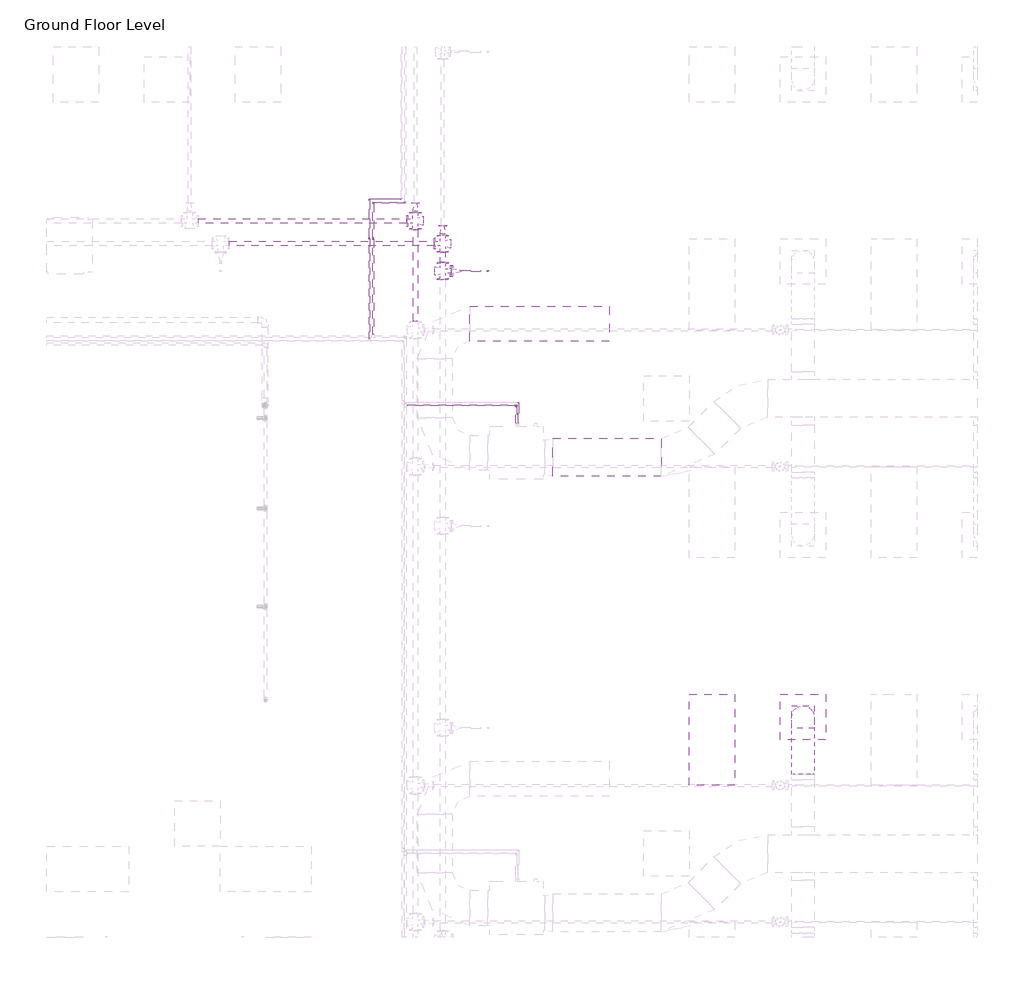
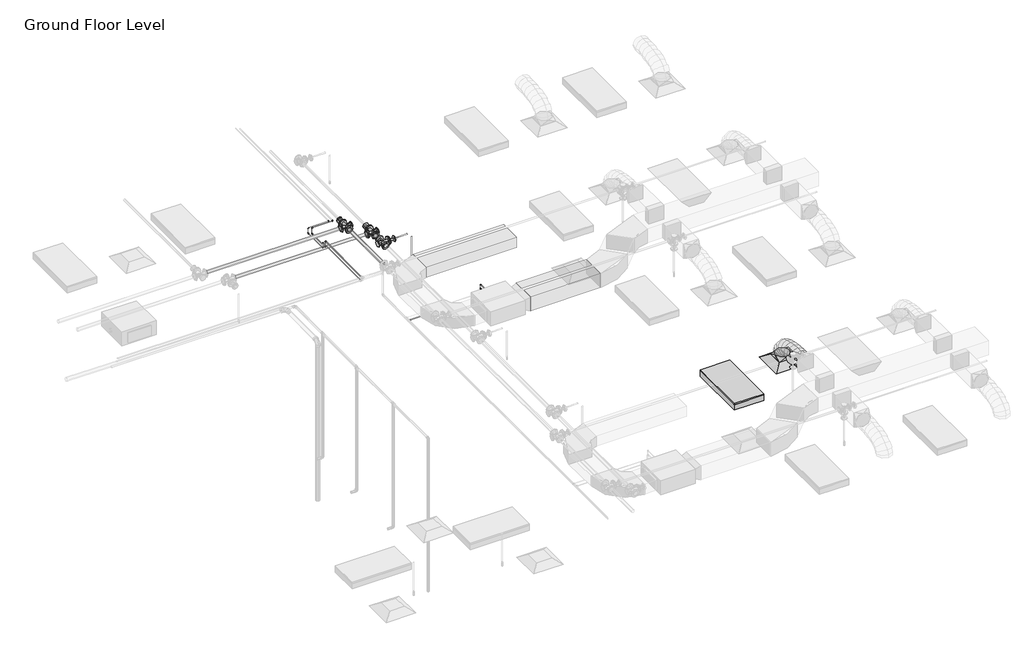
# One storey, part 67 of 73: 21 pipe segments, 20 pipe fittings, 3 duct segments, 1 air terminal, 1 duct fitting, 1 fire suppression terminal, 1 light fixture.
"""IFC4 building model written with IfcOpenShell, lengths in millimetres."""

from ifc_helpers import new_model, si_unit, point, frame, frame_2d, origin, place, context, project, spatial, polyline, circle_curve, ellipse_curve, trimmed, segment, composite_curve, outline, extrude, transform, mapped, element, save
from ifc_brep_helpers import plane_surface, cylinder_surface, advanced_brep
from components import m_return_diffuser_600_x_600_face_300_x_300_connection_ff221211, m_rectangular_to_round_transition_angle_45_degree_641efff0, m_sprinkler_pendent_15_mm_pendent_06fcbd8e, m_troffer_light_parabolic_rectangular1_0600x1200mm_4_lamp_86473d4a, m_elbow_generic_standard_a088f956, m_elbow_generic_standard_2a704253, m_reducer_flanged_cs_class_150_standard_9dfe9ec5, m_reducer_flanged_cs_class_150_standard_a7631c35, m_tee_round_base_flanged_cs_class_150_standard_dd767e04

model = new_model("IFC4")

# Units and contexts
model_context = context("Model", 3, world=origin())
ifc_project = project(units=[si_unit("LENGTHUNIT", "METRE", prefix="MILLI")], contexts=[model_context])

# Site, building, storey
site = spatial("IfcSite", under=ifc_project)
building = spatial("IfcBuilding", under=site)
storey = spatial("IfcBuildingStorey", under=building, Name="Ground Floor Level", Elevation=900.0)

# Air terminal
placement = place(None, origin())
m_return_diffuser_600_x_600_face_300_x_300_connection_shape = m_return_diffuser_600_x_600_face_300_x_300_connection_ff221211(model_context)
element("IfcAirTerminal", 1, ObjectType="M_Supply Diffuser : 600 x 600 Face 300 x 300 Connection", at=placement, inside=storey, context=model_context, shape_type="MappedRepresentation", body=[
    mapped(m_return_diffuser_600_x_600_face_300_x_300_connection_shape, transform((10742.7672395, 8535.2153534, 3650.0), x_axis=(1.0, 0.0, 0.0), y_axis=(0.0, 1.0, 0.0), z_axis=(0.0, 0.0, 1.0))),
])

# Duct fitting
m_rectangular_to_round_transition_angle_45_degree_shape = m_rectangular_to_round_transition_angle_45_degree_641efff0(model_context)
element("IfcDuctFitting", 2, ObjectType="M_Rectangular to Round Transition - Angle : 45 Degree", at=placement, inside=storey, context=model_context, shape_type="MappedRepresentation", body=[
    mapped(m_rectangular_to_round_transition_angle_45_degree_shape, transform((10742.7672395, 8535.2153534, 3751.6), x_axis=(0.0, 0.0, 1.0), y_axis=(-1.0, 0.0, 0.0), z_axis=(0.0, -1.0, 0.0))),
])

# Duct segments
element("IfcDuctSegment", 3, ObjectType="Flex - Round", at=placement, inside=storey, context=model_context, shape_type="AdvancedBrep", body=[
    advanced_brep(
    [(10892.7672395, 8535.2153534, 3826.6), (10742.7672395, 8385.2153534, 3826.6), (10592.7672395, 8535.2153534, 3826.6), (10742.7672395, 8685.2153534, 3826.6), (10892.7672395, 8535.2153534, 3857.9377114), (10742.7672395, 8385.2153534, 3832.2944892), (10592.7672395, 8535.2153534, 3857.9377114), (10742.7672395, 8685.2153534, 3883.5809337), (10892.7672395, 8518.1994208, 3906.2505728), (10742.7672395, 8384.4614419, 3834.435049), (10592.7672395, 8518.1994208, 3906.2505728), (10742.7672395, 8651.9373998, 3978.0660967), (10892.7672395, 8471.0155405, 3968.7113131), (10742.7672395, 8366.8096412, 3857.8020236), (10592.7672395, 8471.0155405, 3968.7113131), (10742.7672395, 8575.2214397, 4079.6206026), (10892.7672395, 8399.4595883, 4016.0700639), (10742.7672395, 8330.5255327, 3881.8163788), (10592.7672395, 8399.4595883, 4016.0700639), (10742.7672395, 8468.3936439, 4150.3237489), (10892.7672395, 8309.3274403, 4050.4146682), (10742.7672395, 8265.7666771, 3906.4925606), (10592.7672395, 8309.3274403, 4050.4146682), (10742.7672395, 8352.8882035, 4194.3367758), (10892.7672395, 8206.4149725, 4073.8329691), (10742.7672395, 8179.8540485, 3926.0424542), (10592.7672395, 8206.4149725, 4073.8329691), (10742.7672395, 8232.9758965, 4221.6234841), (10892.7672395, 8096.5180607, 4088.4128097), (10742.7672395, 8081.3671584, 3939.1085462), (10592.7672395, 8096.5180607, 4088.4128097), (10742.7672395, 8111.6689631, 4237.7170733), (10892.7672395, 7985.4325811, 4096.242033), (10742.7672395, 7977.9272529, 3946.398915), (10592.7672395, 7985.4325811, 4096.242033), (10742.7672395, 7992.9379093, 4246.085151), (10892.7672395, 7878.9544096, 4099.4084821), (10742.7672395, 7876.2629165, 3949.4222102), (10592.7672395, 7878.9544096, 4099.4084821), (10742.7672395, 7881.6459027, 4249.394754), (10892.7672395, 7782.8794221, 4100.0), (10742.7672395, 7783.8029299, 4249.9971571), (10592.7672395, 7782.8794221, 4100.0), (10742.7672395, 7781.9559143, 3950.0028429)],
    [
        (0, 1, circle_curve(frame((10742.7672395, 8535.2153534, 3826.6), z_axis=(0.0, 0.0, -1.0), x_axis=(1.0, 0.0, 0.0)), 150.0)),
        (1, 2, circle_curve(frame((10742.7672395, 8535.2153534, 3826.6), z_axis=(0.0, 0.0, -1.0), x_axis=(1.0, 0.0, 0.0)), 150.0)),
        (2, 3, circle_curve(frame((10742.7672395, 8535.2153534, 3826.6), z_axis=(0.0, 0.0, -1.0), x_axis=(1.0, 0.0, 0.0)), 150.0)),
        (3, 0, circle_curve(frame((10742.7672395, 8535.2153534, 3826.6), z_axis=(0.0, 0.0, -1.0), x_axis=(1.0, 0.0, 0.0)), 150.0)),
        (0, 4),
        (4, 5, ellipse_curve(frame((10742.7672395, 8535.2153534, 3857.9377114), z_axis=(0.0, 0.16851014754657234, -0.9856999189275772), x_axis=(0.0, -0.9856999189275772, -0.1685101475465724)), 152.176131, 150.0)),
        (5, 1),
        (5, 6, ellipse_curve(frame((10742.7672395, 8535.2153534, 3857.9377114), z_axis=(0.0, 0.16851014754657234, -0.9856999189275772), x_axis=(0.0, -0.9856999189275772, -0.1685101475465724)), 152.176131, 150.0)),
        (6, 2),
        (6, 7, ellipse_curve(frame((10742.7672395, 8535.2153534, 3857.9377114), z_axis=(0.0, 0.16851014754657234, -0.9856999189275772), x_axis=(0.0, -0.9856999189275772, -0.1685101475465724)), 152.176131, 150.0)),
        (7, 3),
        (7, 4, ellipse_curve(frame((10742.7672395, 8535.2153534, 3857.9377114), z_axis=(0.0, 0.16851014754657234, -0.9856999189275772), x_axis=(0.0, -0.9856999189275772, -0.1685101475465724)), 152.176131, 150.0)),
        (4, 8),
        (8, 9, ellipse_curve(frame((10742.7672395, 8518.1994208, 3906.2505728), z_axis=(0.0, 0.4730922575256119, -0.8810128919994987), x_axis=(0.0, -0.8810128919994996, -0.47309225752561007)), 151.8002519, 150.0)),
        (9, 5),
        (9, 10, ellipse_curve(frame((10742.7672395, 8518.1994208, 3906.2505728), z_axis=(0.0, 0.4730922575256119, -0.8810128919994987), x_axis=(0.0, -0.8810128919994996, -0.47309225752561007)), 151.8002519, 150.0)),
        (10, 6),
        (10, 11, ellipse_curve(frame((10742.7672395, 8518.1994208, 3906.2505728), z_axis=(0.0, 0.4730922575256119, -0.8810128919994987), x_axis=(0.0, -0.8810128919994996, -0.47309225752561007)), 151.8002519, 150.0)),
        (11, 7),
        (11, 8, ellipse_curve(frame((10742.7672395, 8518.1994208, 3906.2505728), z_axis=(0.0, 0.4730922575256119, -0.8810128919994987), x_axis=(0.0, -0.8810128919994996, -0.47309225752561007)), 151.8002519, 150.0)),
        (8, 12),
        (12, 13, ellipse_curve(frame((10742.7672395, 8471.0155405, 3968.7113131), z_axis=(0.0, 0.7287877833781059, -0.6847396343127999), x_axis=(0.0, -0.6847396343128, -0.7287877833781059)), 152.1832446, 150.0)),
        (13, 9),
        (13, 14, ellipse_curve(frame((10742.7672395, 8471.0155405, 3968.7113131), z_axis=(0.0, 0.7287877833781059, -0.6847396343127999), x_axis=(0.0, -0.6847396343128, -0.7287877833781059)), 152.1832446, 150.0)),
        (14, 10),
        (14, 15, ellipse_curve(frame((10742.7672395, 8471.0155405, 3968.7113131), z_axis=(0.0, 0.7287877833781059, -0.6847396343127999), x_axis=(0.0, -0.6847396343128, -0.7287877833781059)), 152.1832446, 150.0)),
        (15, 11),
        (15, 12, ellipse_curve(frame((10742.7672395, 8471.0155405, 3968.7113131), z_axis=(0.0, 0.7287877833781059, -0.6847396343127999), x_axis=(0.0, -0.6847396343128, -0.7287877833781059)), 152.1832446, 150.0)),
        (12, 16),
        (16, 17, ellipse_curve(frame((10742.7672395, 8399.4595883, 4016.0700639), z_axis=(0.0, 0.8895859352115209, -0.4567678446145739), x_axis=(0.0, -0.4567678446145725, -0.8895859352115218)), 150.91705, 150.0)),
        (17, 13),
        (17, 18, ellipse_curve(frame((10742.7672395, 8399.4595883, 4016.0700639), z_axis=(0.0, 0.8895859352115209, -0.4567678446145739), x_axis=(0.0, -0.4567678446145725, -0.8895859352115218)), 150.91705, 150.0)),
        (18, 14),
        (18, 19, ellipse_curve(frame((10742.7672395, 8399.4595883, 4016.0700639), z_axis=(0.0, 0.8895859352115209, -0.4567678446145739), x_axis=(0.0, -0.4567678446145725, -0.8895859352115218)), 150.91705, 150.0)),
        (19, 15),
        (19, 16, ellipse_curve(frame((10742.7672395, 8399.4595883, 4016.0700639), z_axis=(0.0, 0.8895859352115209, -0.4567678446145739), x_axis=(0.0, -0.4567678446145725, -0.8895859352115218)), 150.91705, 150.0)),
        (16, 20),
        (20, 21, ellipse_curve(frame((10742.7672395, 8309.3274403, 4050.4146682), z_axis=(0.0, 0.9571203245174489, -0.2896906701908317), x_axis=(0.0, -0.2896906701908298, -0.9571203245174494)), 150.369921, 150.0)),
        (21, 17),
        (21, 22, ellipse_curve(frame((10742.7672395, 8309.3274403, 4050.4146682), z_axis=(0.0, 0.9571203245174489, -0.2896906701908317), x_axis=(0.0, -0.2896906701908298, -0.9571203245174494)), 150.369921, 150.0)),
        (22, 18),
        (22, 23, ellipse_curve(frame((10742.7672395, 8309.3274403, 4050.4146682), z_axis=(0.0, 0.9571203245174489, -0.2896906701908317), x_axis=(0.0, -0.2896906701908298, -0.9571203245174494)), 150.369921, 150.0)),
        (23, 19),
        (23, 20, ellipse_curve(frame((10742.7672395, 8309.3274403, 4050.4146682), z_axis=(0.0, 0.9571203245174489, -0.2896906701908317), x_axis=(0.0, -0.2896906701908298, -0.9571203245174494)), 150.369921, 150.0)),
        (20, 24),
        (24, 25, ellipse_curve(frame((10742.7672395, 8206.4149725, 4073.8329691), z_axis=(0.0, 0.9842313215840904, -0.1768861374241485), x_axis=(0.0, -0.17688613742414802, -0.9842313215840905)), 150.1583131, 150.0)),
        (25, 21),
        (25, 26, ellipse_curve(frame((10742.7672395, 8206.4149725, 4073.8329691), z_axis=(0.0, 0.9842313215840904, -0.1768861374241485), x_axis=(0.0, -0.17688613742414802, -0.9842313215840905)), 150.1583131, 150.0)),
        (26, 22),
        (26, 27, ellipse_curve(frame((10742.7672395, 8206.4149725, 4073.8329691), z_axis=(0.0, 0.9842313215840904, -0.1768861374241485), x_axis=(0.0, -0.17688613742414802, -0.9842313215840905)), 150.1583131, 150.0)),
        (27, 23),
        (27, 24, ellipse_curve(frame((10742.7672395, 8206.4149725, 4073.8329691), z_axis=(0.0, 0.9842313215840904, -0.1768861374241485), x_axis=(0.0, -0.17688613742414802, -0.9842313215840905)), 150.1583131, 150.0)),
        (24, 28),
        (28, 29, ellipse_curve(frame((10742.7672395, 8096.5180607, 4088.4128097), z_axis=(0.0, 0.9948906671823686, -0.10095821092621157), x_axis=(0.0, -0.100958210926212, -0.9948906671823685)), 150.0710264, 150.0)),
        (29, 25),
        (29, 30, ellipse_curve(frame((10742.7672395, 8096.5180607, 4088.4128097), z_axis=(0.0, 0.9948906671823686, -0.10095821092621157), x_axis=(0.0, -0.100958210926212, -0.9948906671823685)), 150.0710264, 150.0)),
        (30, 26),
        (30, 31, ellipse_curve(frame((10742.7672395, 8096.5180607, 4088.4128097), z_axis=(0.0, 0.9948906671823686, -0.10095821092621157), x_axis=(0.0, -0.100958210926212, -0.9948906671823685)), 150.0710264, 150.0)),
        (31, 27),
        (31, 28, ellipse_curve(frame((10742.7672395, 8096.5180607, 4088.4128097), z_axis=(0.0, 0.9948906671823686, -0.10095821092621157), x_axis=(0.0, -0.100958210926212, -0.9948906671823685)), 150.0710264, 150.0)),
        (28, 32),
        (32, 33, ellipse_curve(frame((10742.7672395, 7985.4325811, 4096.242033), z_axis=(0.0, 0.9987479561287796, -0.05002519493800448), x_axis=(0.0, -0.050025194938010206, -0.9987479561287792)), 150.0309634, 150.0)),
        (33, 29),
        (33, 34, ellipse_curve(frame((10742.7672395, 7985.4325811, 4096.242033), z_axis=(0.0, 0.9987479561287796, -0.05002519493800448), x_axis=(0.0, -0.050025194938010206, -0.9987479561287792)), 150.0309634, 150.0)),
        (34, 30),
        (34, 35, ellipse_curve(frame((10742.7672395, 7985.4325811, 4096.242033), z_axis=(0.0, 0.9987479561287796, -0.05002519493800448), x_axis=(0.0, -0.050025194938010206, -0.9987479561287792)), 150.0309634, 150.0)),
        (35, 31),
        (35, 32, ellipse_curve(frame((10742.7672395, 7985.4325811, 4096.242033), z_axis=(0.0, 0.9987479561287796, -0.05002519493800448), x_axis=(0.0, -0.050025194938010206, -0.9987479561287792)), 150.0309634, 150.0)),
        (32, 36),
        (36, 37, ellipse_curve(frame((10742.7672395, 7878.9544096, 4099.4084821), z_axis=(0.0, 0.9998390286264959, -0.017942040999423), x_axis=(0.0, -0.01794204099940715, -0.9998390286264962)), 150.0104193, 150.0)),
        (37, 33),
        (37, 38, ellipse_curve(frame((10742.7672395, 7878.9544096, 4099.4084821), z_axis=(0.0, 0.9998390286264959, -0.017942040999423), x_axis=(0.0, -0.01794204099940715, -0.9998390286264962)), 150.0104193, 150.0)),
        (38, 34),
        (38, 39, ellipse_curve(frame((10742.7672395, 7878.9544096, 4099.4084821), z_axis=(0.0, 0.9998390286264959, -0.017942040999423), x_axis=(0.0, -0.01794204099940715, -0.9998390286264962)), 150.0104193, 150.0)),
        (39, 35),
        (39, 36, ellipse_curve(frame((10742.7672395, 7878.9544096, 4099.4084821), z_axis=(0.0, 0.9998390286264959, -0.017942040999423), x_axis=(0.0, -0.01794204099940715, -0.9998390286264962)), 150.0104193, 150.0)),
        (40, 41, circle_curve(frame((10742.7672395, 7782.8794221, 4100.0), z_axis=(0.0, -0.9999810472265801, 0.006156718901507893), x_axis=(1.0, 0.0, 0.0)), 150.0)),
        (41, 42, circle_curve(frame((10742.7672395, 7782.8794221, 4100.0), z_axis=(0.0, -0.9999810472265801, 0.006156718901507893), x_axis=(1.0, 0.0, 0.0)), 150.0)),
        (42, 43, circle_curve(frame((10742.7672395, 7782.8794221, 4100.0), z_axis=(0.0, -0.9999810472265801, 0.006156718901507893), x_axis=(1.0, 0.0, 0.0)), 150.0)),
        (43, 40, circle_curve(frame((10742.7672395, 7782.8794221, 4100.0), z_axis=(0.0, -0.9999810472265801, 0.006156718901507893), x_axis=(1.0, 0.0, 0.0)), 150.0)),
        (36, 40),
        (43, 37),
        (42, 38),
        (41, 39),
    ],
    [
        plane_surface(frame((10742.7672395, 8385.2153534, 3826.6), z_axis=(0.0, 0.0, -1.0), x_axis=(1.0, 0.0, 0.0))),
        cylinder_surface(frame((10742.7672395, 8535.2153534, 3826.6), z_axis=(0.0, 0.0, -1.0), x_axis=(1.0, 0.0, 0.0)), 150.0),
        cylinder_surface(frame((10742.7672395, 8535.2153534, 3857.9377114), z_axis=(0.0, 0.3322008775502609, -0.9432086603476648), x_axis=(1.0, 0.0, 0.0)), 150.0),
        cylinder_surface(frame((10742.7672395, 8518.1994208, 3906.2505728), z_axis=(0.0, 0.6027625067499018, -0.7979206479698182), x_axis=(1.0, 0.0, 0.0)), 150.0),
        cylinder_surface(frame((10742.7672395, 8471.0155405, 3968.7113131), z_axis=(0.0, 0.8339024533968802, -0.5519118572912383), x_axis=(1.0, 0.0, 0.0)), 150.0),
        cylinder_surface(frame((10742.7672395, 8399.4595883, 4016.0700639), z_axis=(0.0, 0.934458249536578, -0.35607271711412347), x_axis=(1.0, 0.0, 0.0)), 150.0),
        cylinder_surface(frame((10742.7672395, 8309.3274403, 4050.4146682), z_axis=(0.0, 0.9750732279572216, -0.2218833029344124), x_axis=(1.0, 0.0, 0.0)), 150.0),
        cylinder_surface(frame((10742.7672395, 8206.4149725, 4073.8329691), z_axis=(0.0, 0.9913140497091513, -0.13151598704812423), x_axis=(1.0, 0.0, 0.0)), 150.0),
        cylinder_surface(frame((10742.7672395, 8096.5180607, 4088.4128097), z_axis=(0.0, 0.9975255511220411, -0.07030487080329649), x_axis=(1.0, 0.0, 0.0)), 150.0),
        cylinder_surface(frame((10742.7672395, 7985.4325811, 4096.242033), z_axis=(0.0, 0.9995581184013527, -0.029724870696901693), x_axis=(1.0, 0.0, 0.0)), 150.0),
        plane_surface(frame((10742.7672395, 7781.9559143, 3950.0028429), z_axis=(0.0, -0.9999810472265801, 0.0061567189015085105), x_axis=(1.0, 0.0, 0.0))),
        cylinder_surface(frame((10742.7672395, 7878.9544096, 4099.4084821), z_axis=(0.0, 0.9999810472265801, -0.006156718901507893), x_axis=(1.0, 0.0, 0.0)), 150.0),
    ],
    [
        (0, [[1, 2, 3, 4]]),
        (1, [[-1, 5, 6, 7]]),
        (1, [[-2, -7, 8, 9]]),
        (1, [[-3, -9, 10, 11]]),
        (1, [[-4, -11, 12, -5]]),
        (2, [[-6, 13, 14, 15]]),
        (2, [[-8, -15, 16, 17]]),
        (2, [[-10, -17, 18, 19]]),
        (2, [[-12, -19, 20, -13]]),
        (3, [[-14, 21, 22, 23]]),
        (3, [[-16, -23, 24, 25]]),
        (3, [[-18, -25, 26, 27]]),
        (3, [[-20, -27, 28, -21]]),
        (4, [[-22, 29, 30, 31]]),
        (4, [[-24, -31, 32, 33]]),
        (4, [[-26, -33, 34, 35]]),
        (4, [[-28, -35, 36, -29]]),
        (5, [[-30, 37, 38, 39]]),
        (5, [[-32, -39, 40, 41]]),
        (5, [[-34, -41, 42, 43]]),
        (5, [[-36, -43, 44, -37]]),
        (6, [[-38, 45, 46, 47]]),
        (6, [[-40, -47, 48, 49]]),
        (6, [[-42, -49, 50, 51]]),
        (6, [[-44, -51, 52, -45]]),
        (7, [[-46, 53, 54, 55]]),
        (7, [[-48, -55, 56, 57]]),
        (7, [[-50, -57, 58, 59]]),
        (7, [[-52, -59, 60, -53]]),
        (8, [[-54, 61, 62, 63]]),
        (8, [[-56, -63, 64, 65]]),
        (8, [[-58, -65, 66, 67]]),
        (8, [[-60, -67, 68, -61]]),
        (9, [[-62, 69, 70, 71]]),
        (9, [[-64, -71, 72, 73]]),
        (9, [[-66, -73, 74, 75]]),
        (9, [[-68, -75, 76, -69]]),
        (10, [[77, 78, 79, 80]]),
        (11, [[-70, 81, -80, 82]]),
        (11, [[-72, -82, -79, 83]]),
        (11, [[-74, -83, -78, 84]]),
        (11, [[-76, -84, -77, -81]]),
    ],
),
])
element("IfcDuctSegment", 4, ObjectType="Radius Elbows / Taps", at=placement, inside=storey, context=model_context, shape_type="SweptSolid", body=[
    extrude(outline(polyline([(7447.693178, 11706.1779527), (7447.693178, 12206.1779527), (8877.032564, 12206.1779527), (8877.032564, 11706.1779527), (7447.693178, 11706.1779527)])), frame((0.0, 0.0, 3950.0057729), z_axis=(0.0, 0.0, 1.0), x_axis=(1.0, 0.0, 0.0)), (0.0, 0.0, 1.0), 300.0),
])
element("IfcDuctSegment", 5, ObjectType="Radius Elbows / Taps", at=placement, inside=storey, context=model_context, shape_type="SweptSolid", body=[
    extrude(outline(polyline([(6355.2889492, 13488.7408949), (6355.2889492, 13950.6158949), (8193.4139492, 13950.6158949), (8193.4139492, 13488.7408949), (6355.2889492, 13488.7408949)])), frame((0.0, 0.0, 3968.1432729), z_axis=(0.0, 0.0, 1.0), x_axis=(1.0, 0.0, 0.0)), (0.0, 0.0, 1.0), 214.3),
])

# Fire suppression terminal
m_sprinkler_pendent_15_mm_pendent_shape = m_sprinkler_pendent_15_mm_pendent_06fcbd8e(model_context)
element("IfcFireSuppressionTerminal", 6, ObjectType="M_Sprinkler - Pendent : 15 mm Pendent", at=placement, inside=storey, context=model_context, shape_type="MappedRepresentation", body=[
    mapped(m_sprinkler_pendent_15_mm_pendent_shape, transform((6592.5481019, 14412.7243649, 3650.0), x_axis=(1.0, 0.0, 0.0), y_axis=(0.0, 1.0, 0.0), z_axis=(0.0, 0.0, 1.0))),
])

# Light fixture
m_troffer_light_parabolic_rectangular1_0600x1200mm_4_lamp_shape = m_troffer_light_parabolic_rectangular1_0600x1200mm_4_lamp_86473d4a(model_context)
element("IfcLightFixture", 7, ObjectType="M_Troffer Light - Parabolic Rectangular1 : 0600x1200mm(4 Lamp) - 277V 2", at=placement, inside=storey, context=model_context, shape_type="MappedRepresentation", body=[
    mapped(m_troffer_light_parabolic_rectangular1_0600x1200mm_4_lamp_shape, transform((9483.3013074, 8253.9188549, 3650.0), x_axis=(0.0, 1.0, 0.0), y_axis=(-1.0, 0.0, 0.0), z_axis=(0.0, 0.0, 1.0))),
])

# Pipe fittings
m_elbow_generic_standard_shape = m_elbow_generic_standard_a088f956(model_context)
element("IfcPipeFitting", 8, ObjectType="M_Elbow - Generic : Standard", at=placement, inside=storey, context=model_context, shape_type="MappedRepresentation", body=[
    mapped(m_elbow_generic_standard_shape, transform((6968.8139492, 12641.4098545, 4034.0932729), x_axis=(0.0, 1.0, 0.0), y_axis=(0.0, 0.0, -1.0), z_axis=(-1.0, 0.0, 0.0))),
])
element("IfcPipeFitting", 9, ObjectType="M_Elbow - Generic : Standard", at=placement, inside=storey, context=model_context, shape_type="MappedRepresentation", body=[
    mapped(m_elbow_generic_standard_shape, transform((6968.8139492, 12641.4098545, 3851.8370709), x_axis=(0.0, 0.0, -1.0), y_axis=(-1.0, 0.0, 0.0), z_axis=(0.0, 1.0, 0.0))),
])
element("IfcPipeFitting", 10, ObjectType="M_Elbow - Generic : Standard", at=placement, inside=storey, context=model_context, shape_type="MappedRepresentation", body=[
    mapped(m_elbow_generic_standard_shape, transform((5079.6672395, 15310.9278534, 4380.0), x_axis=(-1.0, 0.0, 0.0), y_axis=(0.0, 0.0, -1.0), z_axis=(0.0, -1.0, 0.0))),
])
element("IfcPipeFitting", 11, ObjectType="M_Elbow - Generic : Standard", at=placement, inside=storey, context=model_context, shape_type="MappedRepresentation", body=[
    mapped(m_elbow_generic_standard_shape, transform((5079.6672395, 15310.9278534, 4250.0), x_axis=(0.0, 0.0, -1.0), y_axis=(0.0, -1.0, 0.0), z_axis=(-1.0, 0.0, 0.0))),
])
element("IfcPipeFitting", 12, ObjectType="M_Elbow - Generic : Standard", at=placement, inside=storey, context=model_context, shape_type="MappedRepresentation", body=[
    mapped(m_elbow_generic_standard_shape, transform((5079.6672395, 14839.2712401, 4250.0), x_axis=(0.0, -1.0, 0.0), y_axis=(0.0, 0.0, 1.0), z_axis=(-1.0, 0.0, 0.0))),
])
element("IfcPipeFitting", 13, ObjectType="M_Elbow - Generic : Standard", at=placement, inside=storey, context=model_context, shape_type="MappedRepresentation", body=[
    mapped(m_elbow_generic_standard_shape, transform((5079.6672395, 14839.2712401, 4380.0), x_axis=(0.0, 0.0, 1.0), y_axis=(0.0, -1.0, 0.0), z_axis=(1.0, 0.0, 0.0))),
])
element("IfcPipeFitting", 14, ObjectType="M_Elbow - Generic : Standard", at=placement, inside=storey, context=model_context, shape_type="MappedRepresentation", body=[
    mapped(m_elbow_generic_standard_shape, transform((5501.7675988, 15310.9278534, 4380.0), x_axis=(1.0, 0.0, 0.0), y_axis=(0.0, 1.0, 0.0), z_axis=(0.0, 0.0, 1.0))),
])
m_elbow_generic_standard_2_shape = m_elbow_generic_standard_2a704253(model_context)
element("IfcPipeFitting", 15, ObjectType="M_Elbow - Generic : Standard", at=placement, inside=storey, context=model_context, shape_type="MappedRepresentation", body=[
    mapped(m_elbow_generic_standard_2_shape, transform((5452.0810646, 15359.0778534, 4365.0), x_axis=(1.0, 0.0, 0.0), y_axis=(0.0, 1.0, 0.0), z_axis=(0.0, 0.0, 1.0))),
])
element("IfcPipeFitting", 16, ObjectType="M_Elbow - Generic : Standard", at=placement, inside=storey, context=model_context, shape_type="MappedRepresentation", body=[
    mapped(m_elbow_generic_standard_2_shape, transform((6993.8139492, 12681.5253374, 4084.8932729), x_axis=(0.0, 1.0, 0.0), y_axis=(0.0, 0.0, -1.0), z_axis=(-1.0, 0.0, 0.0))),
])
element("IfcPipeFitting", 17, ObjectType="M_Elbow - Generic : Standard", at=placement, inside=storey, context=model_context, shape_type="MappedRepresentation", body=[
    mapped(m_elbow_generic_standard_2_shape, transform((6993.8139492, 12681.5253374, 3894.9), x_axis=(0.0, 0.0, -1.0), y_axis=(-1.0, 0.0, 0.0), z_axis=(0.0, 1.0, 0.0))),
])
element("IfcPipeFitting", 18, ObjectType="M_Elbow - Generic : Standard", at=placement, inside=storey, context=model_context, shape_type="MappedRepresentation", body=[
    mapped(m_elbow_generic_standard_2_shape, transform((5029.9807053, 15359.0778534, 4365.0), x_axis=(-1.0, 0.0, 0.0), y_axis=(0.0, 0.0, -1.0), z_axis=(0.0, -1.0, 0.0))),
])
element("IfcPipeFitting", 19, ObjectType="M_Elbow - Generic : Standard", at=placement, inside=storey, context=model_context, shape_type="MappedRepresentation", body=[
    mapped(m_elbow_generic_standard_2_shape, transform((5029.9807053, 15359.0778534, 4250.0), x_axis=(0.0, 0.0, -1.0), y_axis=(0.0, -1.0, 0.0), z_axis=(-1.0, 0.0, 0.0))),
])
element("IfcPipeFitting", 20, ObjectType="M_Elbow - Generic : Standard", at=placement, inside=storey, context=model_context, shape_type="MappedRepresentation", body=[
    mapped(m_elbow_generic_standard_2_shape, transform((5029.9807053, 14842.4877441, 4250.0), x_axis=(0.0, -1.0, 0.0), y_axis=(0.0, 0.0, 1.0), z_axis=(-1.0, 0.0, 0.0))),
])
element("IfcPipeFitting", 21, ObjectType="M_Elbow - Generic : Standard", at=placement, inside=storey, context=model_context, shape_type="MappedRepresentation", body=[
    mapped(m_elbow_generic_standard_2_shape, transform((5029.9807053, 14842.4877441, 4365.0), x_axis=(0.0, 0.0, 1.0), y_axis=(0.0, -1.0, 0.0), z_axis=(1.0, 0.0, 0.0))),
])
m_reducer_flanged_cs_class_150_standard_shape = m_reducer_flanged_cs_class_150_standard_9dfe9ec5(model_context)
element("IfcPipeFitting", 22, ObjectType="M_Reducer - Flanged - CS - Class 150 : Standard", at=placement, inside=storey, context=model_context, shape_type="MappedRepresentation", body=[
    mapped(m_reducer_flanged_cs_class_150_standard_shape, transform((6111.057812, 14412.7243649, 4291.2754753), x_axis=(1.0, 0.0, 0.0), y_axis=(0.0, 0.0, -1.0), z_axis=(0.0, 1.0, 0.0))),
])
m_reducer_flanged_cs_class_150_standard_2_shape = m_reducer_flanged_cs_class_150_standard_a7631c35(model_context)
element("IfcPipeFitting", 23, ObjectType="M_Reducer - Flanged - CS - Class 150 : Standard", at=placement, inside=storey, context=model_context, shape_type="MappedRepresentation", body=[
    mapped(m_reducer_flanged_cs_class_150_standard_2_shape, transform((5997.057812, 14887.4681847, 4291.0943441), x_axis=(0.0, 1.0, 0.0), y_axis=(-1.0, 0.0, 0.0), z_axis=(0.0, 0.0, 1.0))),
])
element("IfcPipeFitting", 24, ObjectType="M_Reducer - Flanged - CS - Class 150 : Standard", at=placement, inside=storey, context=model_context, shape_type="MappedRepresentation", body=[
    mapped(m_reducer_flanged_cs_class_150_standard_2_shape, transform((5635.869498, 15187.2009828, 4360.0), x_axis=(0.0, 1.0, 0.0), y_axis=(-1.0, 0.0, 0.0), z_axis=(0.0, 0.0, 1.0))),
])
m_tee_round_base_flanged_cs_class_150_standard_shape = m_tee_round_base_flanged_cs_class_150_standard_dd767e04(model_context)
element("IfcPipeFitting", 25, ObjectType="M_Tee Round Base - Flanged - CS - Class 150 : Standard", at=placement, inside=storey, context=model_context, shape_type="MappedRepresentation", body=[
    mapped(m_tee_round_base_flanged_cs_class_150_standard_shape, transform((5997.057812, 14773.4681847, 4291.0943441), x_axis=(0.0, -1.0, 0.0), y_axis=(1.0, 0.0, 0.0), z_axis=(0.0, 0.0, 1.0))),
])
element("IfcPipeFitting", 26, ObjectType="M_Tee Round Base - Flanged - CS - Class 150 : Standard", at=placement, inside=storey, context=model_context, shape_type="MappedRepresentation", body=[
    mapped(m_tee_round_base_flanged_cs_class_150_standard_shape, transform((5997.057812, 14412.7243649, 4291.0943441), x_axis=(0.0, 1.0, 0.0), y_axis=(-1.0, 0.0, 0.0), z_axis=(0.0, 0.0, 1.0))),
])
element("IfcPipeFitting", 27, ObjectType="M_Tee Round Base - Flanged - CS - Class 150 : Standard", at=placement, inside=storey, context=model_context, shape_type="MappedRepresentation", body=[
    mapped(m_tee_round_base_flanged_cs_class_150_standard_shape, transform((5635.869498, 15073.2009828, 4360.0), x_axis=(0.0, -1.0, 0.0), y_axis=(1.0, 0.0, 0.0), z_axis=(0.0, 0.0, 1.0))),
])

# Pipe segments
element("IfcPipeSegment", 28, ObjectType="Copper", at=placement, inside=storey, context=model_context, shape_type="SweptSolid", body=[
    extrude(outline(composite_curve([segment(trimmed(circle_curve(frame_2d((15359.0778534, 4365.0)), 3.35), [point((15355.7278534, 4365.0))], [point((15359.0778534, 4368.35))], False, "CARTESIAN"), True, "CONTINUOUS"), segment(trimmed(circle_curve(frame_2d((15359.0778534, 4365.0)), 3.35), [point((15359.0778534, 4368.35))], [point((15362.4278534, 4365.0))], False, "CARTESIAN"), True, "CONTINUOUS"), segment(trimmed(circle_curve(frame_2d((15359.0778534, 4365.0)), 3.35), [point((15362.4278534, 4365.0))], [point((15359.0778534, 4361.65))], False, "CARTESIAN"), True, "CONTINUOUS"), segment(trimmed(circle_curve(frame_2d((15359.0778534, 4365.0)), 3.35), [point((15359.0778534, 4361.65))], [point((15355.7278534, 4365.0))], False, "CARTESIAN"), True, "CONTINUOUS")], self_intersect=False)), frame((5041.1182053, 0.0, 0.0), z_axis=(1.0, 0.0, 0.0), x_axis=(0.0, 1.0, 0.0)), (0.0, 0.0, 1.0), 399.8253593),
])
element("IfcPipeSegment", 29, ObjectType="Copper", at=placement, inside=storey, context=model_context, shape_type="SweptSolid", body=[
    extrude(outline(composite_curve([segment(trimmed(circle_curve(frame_2d((15310.9278534, 4380.0)), 6.5), [point((15304.4278534, 4380.0))], [point((15310.9278534, 4386.5))], False, "CARTESIAN"), True, "CONTINUOUS"), segment(trimmed(circle_curve(frame_2d((15310.9278534, 4380.0)), 6.5), [point((15310.9278534, 4386.5))], [point((15317.4278534, 4380.0))], False, "CARTESIAN"), True, "CONTINUOUS"), segment(trimmed(circle_curve(frame_2d((15310.9278534, 4380.0)), 6.5), [point((15317.4278534, 4380.0))], [point((15310.9278534, 4373.5))], False, "CARTESIAN"), True, "CONTINUOUS"), segment(trimmed(circle_curve(frame_2d((15310.9278534, 4380.0)), 6.5), [point((15310.9278534, 4373.5))], [point((15304.4278534, 4380.0))], False, "CARTESIAN"), True, "CONTINUOUS")], self_intersect=False)), frame((5093.9547395, 0.0, 0.0), z_axis=(1.0, 0.0, 0.0), x_axis=(0.0, 1.0, 0.0)), (0.0, 0.0, 1.0), 393.5253593),
])
element("IfcPipeSegment", 30, ObjectType="Copper", at=placement, inside=storey, context=model_context, shape_type="SweptSolid", body=[
    extrude(outline(composite_curve([segment(trimmed(circle_curve(frame_2d((12641.4098545, 3851.8370709)), 6.5), [point((12647.9098545, 3851.8370709))], [point((12641.4098545, 3845.3370709))], False, "CARTESIAN"), True, "CONTINUOUS"), segment(trimmed(circle_curve(frame_2d((12641.4098545, 3851.8370709)), 6.5), [point((12641.4098545, 3845.3370709))], [point((12634.9098545, 3851.8370709))], False, "CARTESIAN"), True, "CONTINUOUS"), segment(trimmed(circle_curve(frame_2d((12641.4098545, 3851.8370709)), 6.5), [point((12634.9098545, 3851.8370709))], [point((12641.4098545, 3858.3370709))], False, "CARTESIAN"), True, "CONTINUOUS"), segment(trimmed(circle_curve(frame_2d((12641.4098545, 3851.8370709)), 6.5), [point((12641.4098545, 3858.3370709))], [point((12647.9098545, 3851.8370709))], False, "CARTESIAN"), True, "CONTINUOUS")], self_intersect=False)), frame((5536.8172395, 0.0, 0.0), z_axis=(1.0, 0.0, 0.0), x_axis=(0.0, 1.0, 0.0)), (0.0, 0.0, 1.0), 1417.7092098),
])
element("IfcPipeSegment", 31, ObjectType="Copper", at=placement, inside=storey, context=model_context, shape_type="SweptSolid", body=[
    extrude(outline(composite_curve([segment(trimmed(circle_curve(frame_2d((4034.0932729, 6968.8139492)), 6.5), [point((4034.0932729, 6975.3139492))], [point((4040.5932729, 6968.8139492))], False, "CARTESIAN"), True, "CONTINUOUS"), segment(trimmed(circle_curve(frame_2d((4034.0932729, 6968.8139492)), 6.5), [point((4040.5932729, 6968.8139492))], [point((4034.0932729, 6962.3139492))], False, "CARTESIAN"), True, "CONTINUOUS"), segment(trimmed(circle_curve(frame_2d((4034.0932729, 6968.8139492)), 6.5), [point((4034.0932729, 6962.3139492))], [point((4027.5932729, 6968.8139492))], False, "CARTESIAN"), True, "CONTINUOUS"), segment(trimmed(circle_curve(frame_2d((4034.0932729, 6968.8139492)), 6.5), [point((4027.5932729, 6968.8139492))], [point((4034.0932729, 6975.3139492))], False, "CARTESIAN"), True, "CONTINUOUS")], self_intersect=False)), frame((0.0, 12407.7779527, 0.0), z_axis=(0.0, 1.0, 0.0), x_axis=(0.0, 0.0, 1.0)), (0.0, 0.0, 1.0), 219.3444019),
])
element("IfcPipeSegment", 32, ObjectType="Copper", at=placement, inside=storey, context=model_context, shape_type="SweptSolid", body=[
    extrude(outline(composite_curve([segment(trimmed(circle_curve(frame_2d((4084.8932729, 6993.8139492)), 3.35), [point((4084.8932729, 6997.1639492))], [point((4088.2432729, 6993.8139492))], False, "CARTESIAN"), True, "CONTINUOUS"), segment(trimmed(circle_curve(frame_2d((4084.8932729, 6993.8139492)), 3.35), [point((4088.2432729, 6993.8139492))], [point((4084.8932729, 6990.4639492))], False, "CARTESIAN"), True, "CONTINUOUS"), segment(trimmed(circle_curve(frame_2d((4084.8932729, 6993.8139492)), 3.35), [point((4084.8932729, 6990.4639492))], [point((4081.5432729, 6993.8139492))], False, "CARTESIAN"), True, "CONTINUOUS"), segment(trimmed(circle_curve(frame_2d((4084.8932729, 6993.8139492)), 3.35), [point((4081.5432729, 6993.8139492))], [point((4084.8932729, 6997.1639492))], False, "CARTESIAN"), True, "CONTINUOUS")], self_intersect=False)), frame((0.0, 12407.7779527, 0.0), z_axis=(0.0, 1.0, 0.0), x_axis=(0.0, 0.0, 1.0)), (0.0, 0.0, 1.0), 262.6098848),
])
element("IfcPipeSegment", 33, ObjectType="Copper", at=placement, inside=storey, context=model_context, shape_type="SweptSolid", body=[
    extrude(outline(composite_curve([segment(trimmed(circle_curve(frame_2d((6968.8139492, 12641.4098545)), 6.5), [point((6975.3139492, 12641.4098545))], [point((6968.8139492, 12634.9098545))], False, "CARTESIAN"), True, "CONTINUOUS"), segment(trimmed(circle_curve(frame_2d((6968.8139492, 12641.4098545)), 6.5), [point((6968.8139492, 12634.9098545))], [point((6962.3139492, 12641.4098545))], False, "CARTESIAN"), True, "CONTINUOUS"), segment(trimmed(circle_curve(frame_2d((6968.8139492, 12641.4098545)), 6.5), [point((6962.3139492, 12641.4098545))], [point((6968.8139492, 12647.9098545))], False, "CARTESIAN"), True, "CONTINUOUS"), segment(trimmed(circle_curve(frame_2d((6968.8139492, 12641.4098545)), 6.5), [point((6968.8139492, 12647.9098545))], [point((6975.3139492, 12641.4098545))], False, "CARTESIAN"), True, "CONTINUOUS")], self_intersect=False)), frame((0.0, 0.0, 3866.1245709), z_axis=(0.0, 0.0, 1.0), x_axis=(1.0, 0.0, 0.0)), (0.0, 0.0, 1.0), 153.6812021),
])
element("IfcPipeSegment", 34, ObjectType="Copper", at=placement, inside=storey, context=model_context, shape_type="SweptSolid", body=[
    extrude(outline(composite_curve([segment(trimmed(circle_curve(frame_2d((6993.8139492, 12681.5253374)), 3.35), [point((6997.1639492, 12681.5253374))], [point((6993.8139492, 12678.1753374))], False, "CARTESIAN"), True, "CONTINUOUS"), segment(trimmed(circle_curve(frame_2d((6993.8139492, 12681.5253374)), 3.35), [point((6993.8139492, 12678.1753374))], [point((6990.4639492, 12681.5253374))], False, "CARTESIAN"), True, "CONTINUOUS"), segment(trimmed(circle_curve(frame_2d((6993.8139492, 12681.5253374)), 3.35), [point((6990.4639492, 12681.5253374))], [point((6993.8139492, 12684.8753374))], False, "CARTESIAN"), True, "CONTINUOUS"), segment(trimmed(circle_curve(frame_2d((6993.8139492, 12681.5253374)), 3.35), [point((6993.8139492, 12684.8753374))], [point((6997.1639492, 12681.5253374))], False, "CARTESIAN"), True, "CONTINUOUS")], self_intersect=False)), frame((0.0, 0.0, 3906.0375), z_axis=(0.0, 0.0, 1.0), x_axis=(1.0, 0.0, 0.0)), (0.0, 0.0, 1.0), 167.7182729),
])
element("IfcPipeSegment", 35, ObjectType="Copper", at=placement, inside=storey, context=model_context, shape_type="SweptSolid", body=[
    extrude(outline(composite_curve([segment(trimmed(circle_curve(frame_2d((4380.0, 5079.6672395)), 6.5), [point((4380.0, 5086.1672395))], [point((4386.5, 5079.6672395))], False, "CARTESIAN"), True, "CONTINUOUS"), segment(trimmed(circle_curve(frame_2d((4380.0, 5079.6672395)), 6.5), [point((4386.5, 5079.6672395))], [point((4380.0, 5073.1672395))], False, "CARTESIAN"), True, "CONTINUOUS"), segment(trimmed(circle_curve(frame_2d((4380.0, 5079.6672395)), 6.5), [point((4380.0, 5073.1672395))], [point((4373.5, 5079.6672395))], False, "CARTESIAN"), True, "CONTINUOUS"), segment(trimmed(circle_curve(frame_2d((4380.0, 5079.6672395)), 6.5), [point((4373.5, 5079.6672395))], [point((4380.0, 5086.1672395))], False, "CARTESIAN"), True, "CONTINUOUS")], self_intersect=False)), frame((0.0, 13576.9653534, 0.0), z_axis=(0.0, 1.0, 0.0), x_axis=(0.0, 0.0, 1.0)), (0.0, 0.0, 1.0), 1248.0183867),
])
element("IfcPipeSegment", 36, ObjectType="Copper", at=placement, inside=storey, context=model_context, shape_type="SweptSolid", body=[
    extrude(outline(composite_curve([segment(trimmed(circle_curve(frame_2d((4250.0, 5079.6672395)), 6.5), [point((4250.0, 5073.1672395))], [point((4243.5, 5079.6672395))], False, "CARTESIAN"), True, "CONTINUOUS"), segment(trimmed(circle_curve(frame_2d((4250.0, 5079.6672395)), 6.5), [point((4243.5, 5079.6672395))], [point((4250.0, 5086.1672395))], False, "CARTESIAN"), True, "CONTINUOUS"), segment(trimmed(circle_curve(frame_2d((4250.0, 5079.6672395)), 6.5), [point((4250.0, 5086.1672395))], [point((4256.5, 5079.6672395))], False, "CARTESIAN"), True, "CONTINUOUS"), segment(trimmed(circle_curve(frame_2d((4250.0, 5079.6672395)), 6.5), [point((4256.5, 5079.6672395))], [point((4250.0, 5073.1672395))], False, "CARTESIAN"), True, "CONTINUOUS")], self_intersect=False)), frame((0.0, 14853.5587401, 0.0), z_axis=(0.0, 1.0, 0.0), x_axis=(0.0, 0.0, 1.0)), (0.0, 0.0, 1.0), 443.0816133),
])
element("IfcPipeSegment", 37, ObjectType="Copper", at=placement, inside=storey, context=model_context, shape_type="SweptSolid", body=[
    extrude(outline(composite_curve([segment(trimmed(circle_curve(frame_2d((4250.0, 5029.9807053)), 3.35), [point((4250.0, 5026.6307053))], [point((4246.65, 5029.9807053))], False, "CARTESIAN"), True, "CONTINUOUS"), segment(trimmed(circle_curve(frame_2d((4250.0, 5029.9807053)), 3.35), [point((4246.65, 5029.9807053))], [point((4250.0, 5033.3307053))], False, "CARTESIAN"), True, "CONTINUOUS"), segment(trimmed(circle_curve(frame_2d((4250.0, 5029.9807053)), 3.35), [point((4250.0, 5033.3307053))], [point((4253.35, 5029.9807053))], False, "CARTESIAN"), True, "CONTINUOUS"), segment(trimmed(circle_curve(frame_2d((4250.0, 5029.9807053)), 3.35), [point((4253.35, 5029.9807053))], [point((4250.0, 5026.6307053))], False, "CARTESIAN"), True, "CONTINUOUS")], self_intersect=False)), frame((0.0, 14853.6252441, 0.0), z_axis=(0.0, 1.0, 0.0), x_axis=(0.0, 0.0, 1.0)), (0.0, 0.0, 1.0), 494.3151093),
])
element("IfcPipeSegment", 38, ObjectType="Copper", at=placement, inside=storey, context=model_context, shape_type="SweptSolid", body=[
    extrude(outline(composite_curve([segment(trimmed(circle_curve(frame_2d((4365.0, 5029.9807053)), 3.35), [point((4365.0, 5033.3307053))], [point((4368.35, 5029.9807053))], False, "CARTESIAN"), True, "CONTINUOUS"), segment(trimmed(circle_curve(frame_2d((4365.0, 5029.9807053)), 3.35), [point((4368.35, 5029.9807053))], [point((4365.0, 5026.6307053))], False, "CARTESIAN"), True, "CONTINUOUS"), segment(trimmed(circle_curve(frame_2d((4365.0, 5029.9807053)), 3.35), [point((4365.0, 5026.6307053))], [point((4361.65, 5029.9807053))], False, "CARTESIAN"), True, "CONTINUOUS"), segment(trimmed(circle_curve(frame_2d((4365.0, 5029.9807053)), 3.35), [point((4361.65, 5029.9807053))], [point((4365.0, 5033.3307053))], False, "CARTESIAN"), True, "CONTINUOUS")], self_intersect=False)), frame((0.0, 13521.0060138, 0.0), z_axis=(0.0, 1.0, 0.0), x_axis=(0.0, 0.0, 1.0)), (0.0, 0.0, 1.0), 1310.3442303),
])
element("IfcPipeSegment", 39, ObjectType="Copper", at=placement, inside=storey, context=model_context, shape_type="SweptSolid", body=[
    extrude(outline(composite_curve([segment(trimmed(circle_curve(frame_2d((5079.6672395, 15310.9278534)), 6.5), [point((5086.1672395, 15310.9278534))], [point((5079.6672395, 15304.4278534))], False, "CARTESIAN"), True, "CONTINUOUS"), segment(trimmed(circle_curve(frame_2d((5079.6672395, 15310.9278534)), 6.5), [point((5079.6672395, 15304.4278534))], [point((5073.1672395, 15310.9278534))], False, "CARTESIAN"), True, "CONTINUOUS"), segment(trimmed(circle_curve(frame_2d((5079.6672395, 15310.9278534)), 6.5), [point((5073.1672395, 15310.9278534))], [point((5079.6672395, 15317.4278534))], False, "CARTESIAN"), True, "CONTINUOUS"), segment(trimmed(circle_curve(frame_2d((5079.6672395, 15310.9278534)), 6.5), [point((5079.6672395, 15317.4278534))], [point((5086.1672395, 15310.9278534))], False, "CARTESIAN"), True, "CONTINUOUS")], self_intersect=False)), frame((0.0, 0.0, 4264.2875), z_axis=(0.0, 0.0, 1.0), x_axis=(1.0, 0.0, 0.0)), (0.0, 0.0, 1.0), 101.425),
])
element("IfcPipeSegment", 40, ObjectType="Copper", at=placement, inside=storey, context=model_context, shape_type="SweptSolid", body=[
    extrude(outline(composite_curve([segment(trimmed(circle_curve(frame_2d((5029.9807053, 15359.0778534)), 3.35), [point((5033.3307053, 15359.0778534))], [point((5029.9807053, 15355.7278534))], False, "CARTESIAN"), True, "CONTINUOUS"), segment(trimmed(circle_curve(frame_2d((5029.9807053, 15359.0778534)), 3.35), [point((5029.9807053, 15355.7278534))], [point((5026.6307053, 15359.0778534))], False, "CARTESIAN"), True, "CONTINUOUS"), segment(trimmed(circle_curve(frame_2d((5029.9807053, 15359.0778534)), 3.35), [point((5026.6307053, 15359.0778534))], [point((5029.9807053, 15362.4278534))], False, "CARTESIAN"), True, "CONTINUOUS"), segment(trimmed(circle_curve(frame_2d((5029.9807053, 15359.0778534)), 3.35), [point((5029.9807053, 15362.4278534))], [point((5033.3307053, 15359.0778534))], False, "CARTESIAN"), True, "CONTINUOUS")], self_intersect=False)), frame((0.0, 0.0, 4261.1375), z_axis=(0.0, 0.0, 1.0), x_axis=(1.0, 0.0, 0.0)), (0.0, 0.0, 1.0), 92.725),
])
element("IfcPipeSegment", 41, ObjectType="Copper", at=placement, inside=storey, context=model_context, shape_type="SweptSolid", body=[
    extrude(outline(composite_curve([segment(trimmed(circle_curve(frame_2d((5029.9807053, 14842.4877441)), 3.35), [point((5026.6307053, 14842.4877441))], [point((5029.9807053, 14845.8377441))], False, "CARTESIAN"), True, "CONTINUOUS"), segment(trimmed(circle_curve(frame_2d((5029.9807053, 14842.4877441)), 3.35), [point((5029.9807053, 14845.8377441))], [point((5033.3307053, 14842.4877441))], False, "CARTESIAN"), True, "CONTINUOUS"), segment(trimmed(circle_curve(frame_2d((5029.9807053, 14842.4877441)), 3.35), [point((5033.3307053, 14842.4877441))], [point((5029.9807053, 14839.1377441))], False, "CARTESIAN"), True, "CONTINUOUS"), segment(trimmed(circle_curve(frame_2d((5029.9807053, 14842.4877441)), 3.35), [point((5029.9807053, 14839.1377441))], [point((5026.6307053, 14842.4877441))], False, "CARTESIAN"), True, "CONTINUOUS")], self_intersect=False)), frame((0.0, 0.0, 4261.1375), z_axis=(0.0, 0.0, 1.0), x_axis=(1.0, 0.0, 0.0)), (0.0, 0.0, 1.0), 92.725),
])
element("IfcPipeSegment", 42, ObjectType="Copper", at=placement, inside=storey, context=model_context, shape_type="SweptSolid", body=[
    extrude(outline(composite_curve([segment(trimmed(circle_curve(frame_2d((5079.6672395, 14839.2712401)), 6.5), [point((5073.1672395, 14839.2712401))], [point((5079.6672395, 14845.7712401))], False, "CARTESIAN"), True, "CONTINUOUS"), segment(trimmed(circle_curve(frame_2d((5079.6672395, 14839.2712401)), 6.5), [point((5079.6672395, 14845.7712401))], [point((5086.1672395, 14839.2712401))], False, "CARTESIAN"), True, "CONTINUOUS"), segment(trimmed(circle_curve(frame_2d((5079.6672395, 14839.2712401)), 6.5), [point((5086.1672395, 14839.2712401))], [point((5079.6672395, 14832.7712401))], False, "CARTESIAN"), True, "CONTINUOUS"), segment(trimmed(circle_curve(frame_2d((5079.6672395, 14839.2712401)), 6.5), [point((5079.6672395, 14832.7712401))], [point((5073.1672395, 14839.2712401))], False, "CARTESIAN"), True, "CONTINUOUS")], self_intersect=False)), frame((0.0, 0.0, 4264.2875), z_axis=(0.0, 0.0, 1.0), x_axis=(1.0, 0.0, 0.0)), (0.0, 0.0, 1.0), 101.425),
])
element("IfcPipeSegment", 43, ObjectType="Steel flanged", at=placement, inside=storey, context=model_context, shape_type="SweptSolid", body=[
    extrude(outline(composite_curve([segment(trimmed(circle_curve(frame_2d((14773.4681847, 4291.0943441)), 30.1625), [point((14743.3056847, 4291.0943441))], [point((14773.4681847, 4321.2568441))], False, "CARTESIAN"), True, "CONTINUOUS"), segment(trimmed(circle_curve(frame_2d((14773.4681847, 4291.0943441)), 30.1625), [point((14773.4681847, 4321.2568441))], [point((14803.6306847, 4291.0943441))], False, "CARTESIAN"), True, "CONTINUOUS"), segment(trimmed(circle_curve(frame_2d((14773.4681847, 4291.0943441)), 30.1625), [point((14803.6306847, 4291.0943441))], [point((14773.4681847, 4260.9318441))], False, "CARTESIAN"), True, "CONTINUOUS"), segment(trimmed(circle_curve(frame_2d((14773.4681847, 4291.0943441)), 30.1625), [point((14773.4681847, 4260.9318441))], [point((14743.3056847, 4291.0943441))], False, "CARTESIAN"), True, "CONTINUOUS")], self_intersect=False)), frame((3185.8868905, 0.0, 0.0), z_axis=(1.0, 0.0, 0.0), x_axis=(0.0, 1.0, 0.0)), (0.0, 0.0, 1.0), 2697.1709215),
])
element("IfcPipeSegment", 44, ObjectType="Steel flanged", at=placement, inside=storey, context=model_context, shape_type="SweptSolid", body=[
    extrude(outline(composite_curve([segment(trimmed(circle_curve(frame_2d((6592.5481019, 14412.7243649)), 10.668), [point((6581.8801019, 14412.7243649))], [point((6592.5481019, 14423.3923649))], False, "CARTESIAN"), True, "CONTINUOUS"), segment(trimmed(circle_curve(frame_2d((6592.5481019, 14412.7243649)), 10.668), [point((6592.5481019, 14423.3923649))], [point((6603.2161019, 14412.7243649))], False, "CARTESIAN"), True, "CONTINUOUS"), segment(trimmed(circle_curve(frame_2d((6592.5481019, 14412.7243649)), 10.668), [point((6603.2161019, 14412.7243649))], [point((6592.5481019, 14402.0563649))], False, "CARTESIAN"), True, "CONTINUOUS"), segment(trimmed(circle_curve(frame_2d((6592.5481019, 14412.7243649)), 10.668), [point((6592.5481019, 14402.0563649))], [point((6581.8801019, 14412.7243649))], False, "CARTESIAN"), True, "CONTINUOUS")], self_intersect=False)), frame((0.0, 0.0, 3650.0), z_axis=(0.0, 0.0, 1.0), x_axis=(1.0, 0.0, 0.0)), (0.0, 0.0, 1.0), 548.2668816),
])
element("IfcPipeSegment", 45, ObjectType="Steel flanged", at=placement, inside=storey, context=model_context, shape_type="SweptSolid", body=[
    extrude(outline(composite_curve([segment(trimmed(circle_curve(frame_2d((14412.7243649, 4291.2754753)), 10.668), [point((14423.3923649, 4291.2754753))], [point((14412.7243649, 4280.6074753))], False, "CARTESIAN"), True, "CONTINUOUS"), segment(trimmed(circle_curve(frame_2d((14412.7243649, 4291.2754753)), 10.668), [point((14412.7243649, 4280.6074753))], [point((14402.0563649, 4291.2754753))], False, "CARTESIAN"), True, "CONTINUOUS"), segment(trimmed(circle_curve(frame_2d((14412.7243649, 4291.2754753)), 10.668), [point((14402.0563649, 4291.2754753))], [point((14412.7243649, 4301.9434753))], False, "CARTESIAN"), True, "CONTINUOUS"), segment(trimmed(circle_curve(frame_2d((14412.7243649, 4291.2754753)), 10.668), [point((14412.7243649, 4301.9434753))], [point((14423.3923649, 4291.2754753))], False, "CARTESIAN"), True, "CONTINUOUS")], self_intersect=False)), frame((6238.057812, 0.0, 0.0), z_axis=(1.0, 0.0, 0.0), x_axis=(0.0, 1.0, 0.0)), (0.0, 0.0, 1.0), 261.4816962),
])
element("IfcPipeSegment", 46, ObjectType="Steel flanged", at=placement, inside=storey, context=model_context, shape_type="SweptSolid", body=[
    extrude(outline(composite_curve([segment(trimmed(circle_curve(frame_2d((4291.0943441, 5997.057812)), 30.1625), [point((4291.0943441, 5966.895312))], [point((4260.9318441, 5997.057812))], False, "CARTESIAN"), True, "CONTINUOUS"), segment(trimmed(circle_curve(frame_2d((4291.0943441, 5997.057812)), 30.1625), [point((4260.9318441, 5997.057812))], [point((4291.0943441, 6027.220312))], False, "CARTESIAN"), True, "CONTINUOUS"), segment(trimmed(circle_curve(frame_2d((4291.0943441, 5997.057812)), 30.1625), [point((4291.0943441, 6027.220312))], [point((4321.2568441, 5997.057812))], False, "CARTESIAN"), True, "CONTINUOUS"), segment(trimmed(circle_curve(frame_2d((4291.0943441, 5997.057812)), 30.1625), [point((4321.2568441, 5997.057812))], [point((4291.0943441, 5966.895312))], False, "CARTESIAN"), True, "CONTINUOUS")], self_intersect=False)), frame((0.0, 14526.7243649, 0.0), z_axis=(0.0, 1.0, 0.0), x_axis=(0.0, 0.0, 1.0)), (0.0, 0.0, 1.0), 132.7438199),
])
element("IfcPipeSegment", 47, ObjectType="Steel flanged", at=placement, inside=storey, context=model_context, shape_type="SweptSolid", body=[
    extrude(outline(composite_curve([segment(trimmed(circle_curve(frame_2d((15073.2009828, 4360.0)), 30.1625), [point((15043.0384828, 4360.0))], [point((15073.2009828, 4390.1625))], False, "CARTESIAN"), True, "CONTINUOUS"), segment(trimmed(circle_curve(frame_2d((15073.2009828, 4360.0)), 30.1625), [point((15073.2009828, 4390.1625))], [point((15103.3634828, 4360.0))], False, "CARTESIAN"), True, "CONTINUOUS"), segment(trimmed(circle_curve(frame_2d((15073.2009828, 4360.0)), 30.1625), [point((15103.3634828, 4360.0))], [point((15073.2009828, 4329.8375))], False, "CARTESIAN"), True, "CONTINUOUS"), segment(trimmed(circle_curve(frame_2d((15073.2009828, 4360.0)), 30.1625), [point((15073.2009828, 4329.8375))], [point((15043.0384828, 4360.0))], False, "CARTESIAN"), True, "CONTINUOUS")], self_intersect=False)), frame((2776.7672395, 0.0, 0.0), z_axis=(1.0, 0.0, 0.0), x_axis=(0.0, 1.0, 0.0)), (0.0, 0.0, 1.0), 2745.1022585),
])
element("IfcPipeSegment", 48, ObjectType="Steel flanged", at=placement, inside=storey, context=model_context, shape_type="SweptSolid", body=[
    extrude(outline(composite_curve([segment(trimmed(circle_curve(frame_2d((4360.0, 5635.869498)), 30.1625), [point((4360.0, 5605.706998))], [point((4329.8375, 5635.869498))], False, "CARTESIAN"), True, "CONTINUOUS"), segment(trimmed(circle_curve(frame_2d((4360.0, 5635.869498)), 30.1625), [point((4329.8375, 5635.869498))], [point((4360.0, 5666.031998))], False, "CARTESIAN"), True, "CONTINUOUS"), segment(trimmed(circle_curve(frame_2d((4360.0, 5635.869498)), 30.1625), [point((4360.0, 5666.031998))], [point((4390.1625, 5635.869498))], False, "CARTESIAN"), True, "CONTINUOUS"), segment(trimmed(circle_curve(frame_2d((4360.0, 5635.869498)), 30.1625), [point((4390.1625, 5635.869498))], [point((4360.0, 5605.706998))], False, "CARTESIAN"), True, "CONTINUOUS")], self_intersect=False)), frame((0.0, 13749.2153534, 0.0), z_axis=(0.0, 1.0, 0.0), x_axis=(0.0, 0.0, 1.0)), (0.0, 0.0, 1.0), 1209.9856294),
])

save(model, "model.ifc")
